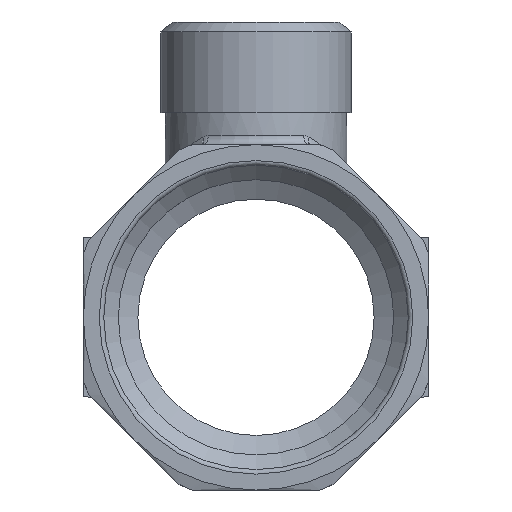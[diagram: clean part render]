
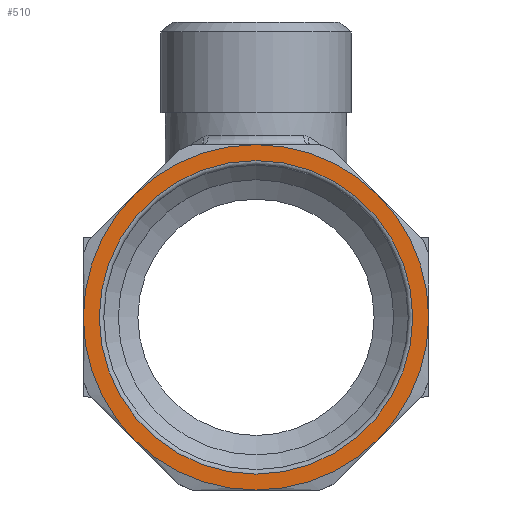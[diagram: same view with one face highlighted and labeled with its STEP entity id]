
A CAD part, front view. The second image highlights one B-rep face of the part: STEP entity #510.
In plain terms, the highlighted planar face has unit normal (0, -1, 0).
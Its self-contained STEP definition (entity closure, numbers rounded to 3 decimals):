
#510=ADVANCED_FACE('',(#6902,#6904),#6906,.F.);
#6902=FACE_BOUND('',#6903,.T.);
#6903=EDGE_LOOP('',(#11833,#11834,#11835,#11836,#11837,#11838,#11839,#11840));
#6904=FACE_BOUND('',#6905,.T.);
#6905=EDGE_LOOP('',(#11841));
#6906=PLANE('',#6907);
#6907=AXIS2_PLACEMENT_3D('',#6908,#6909,#6910);
#6908=CARTESIAN_POINT('',(0.,0.,0.));
#6909=DIRECTION('',(0.,1.,0.));
#6910=DIRECTION('',(-1.,0.,0.));
#11833=ORIENTED_EDGE('',*,*,#14566,.T.);
#11834=ORIENTED_EDGE('',*,*,#14565,.T.);
#11835=ORIENTED_EDGE('',*,*,#14564,.T.);
#11836=ORIENTED_EDGE('',*,*,#14571,.T.);
#11837=ORIENTED_EDGE('',*,*,#14570,.T.);
#11838=ORIENTED_EDGE('',*,*,#14569,.T.);
#11839=ORIENTED_EDGE('',*,*,#14568,.T.);
#11840=ORIENTED_EDGE('',*,*,#14567,.T.);
#11841=ORIENTED_EDGE('',*,*,#14753,.T.);
#14564=EDGE_CURVE('',#17202,#17258,#17302,.T.);
#14565=EDGE_CURVE('',#17210,#17202,#17303,.T.);
#14566=EDGE_CURVE('',#17218,#17210,#17304,.T.);
#14567=EDGE_CURVE('',#17226,#17218,#17305,.T.);
#14568=EDGE_CURVE('',#17234,#17226,#17306,.T.);
#14569=EDGE_CURVE('',#17242,#17234,#17307,.T.);
#14570=EDGE_CURVE('',#17250,#17242,#17308,.T.);
#14571=EDGE_CURVE('',#17258,#17250,#17309,.T.);
#14753=EDGE_CURVE('',#17672,#17672,#17673,.F.);
#17202=VERTEX_POINT('',#31474);
#17210=VERTEX_POINT('',#31533);
#17218=VERTEX_POINT('',#31582);
#17226=VERTEX_POINT('',#31643);
#17234=VERTEX_POINT('',#31692);
#17242=VERTEX_POINT('',#31751);
#17250=VERTEX_POINT('',#31800);
#17258=VERTEX_POINT('',#31859);
#17302=CIRCLE('',#31997,19.);
#17303=CIRCLE('',#32001,19.);
#17304=CIRCLE('',#32005,19.);
#17305=CIRCLE('',#32009,19.);
#17306=CIRCLE('',#32013,19.);
#17307=CIRCLE('',#32017,19.);
#17308=CIRCLE('',#32021,19.);
#17309=CIRCLE('',#32025,19.);
#17672=VERTEX_POINT('',#32758);
#17673=CIRCLE('',#32759,17.25);
#31474=CARTESIAN_POINT('',(0.,0.,19.));
#31533=CARTESIAN_POINT('',(13.435,0.,13.435));
#31582=CARTESIAN_POINT('',(19.,0.,0.));
#31643=CARTESIAN_POINT('',(13.435,0.,-13.435));
#31692=CARTESIAN_POINT('',(0.,0.,-19.));
#31751=CARTESIAN_POINT('',(-13.435,0.,-13.435));
#31800=CARTESIAN_POINT('',(-19.,0.,0.));
#31859=CARTESIAN_POINT('',(-13.435,0.,13.435));
#31997=AXIS2_PLACEMENT_3D('',#31998,#31999,#32000);
#31998=CARTESIAN_POINT('',(0.,0.,0.));
#31999=DIRECTION('',(0.,-1.,0.));
#32000=DIRECTION('',(0.,0.,1.));
#32001=AXIS2_PLACEMENT_3D('',#32002,#32003,#32004);
#32002=CARTESIAN_POINT('',(0.,0.,0.));
#32003=DIRECTION('',(0.,-1.,0.));
#32004=DIRECTION('',(0.707,0.,0.707));
#32005=AXIS2_PLACEMENT_3D('',#32006,#32007,#32008);
#32006=CARTESIAN_POINT('',(0.,0.,0.));
#32007=DIRECTION('',(0.,-1.,0.));
#32008=DIRECTION('',(1.,0.,0.));
#32009=AXIS2_PLACEMENT_3D('',#32010,#32011,#32012);
#32010=CARTESIAN_POINT('',(0.,0.,0.));
#32011=DIRECTION('',(0.,-1.,0.));
#32012=DIRECTION('',(0.707,0.,-0.707));
#32013=AXIS2_PLACEMENT_3D('',#32014,#32015,#32016);
#32014=CARTESIAN_POINT('',(0.,0.,0.));
#32015=DIRECTION('',(0.,-1.,0.));
#32016=DIRECTION('',(0.,0.,-1.));
#32017=AXIS2_PLACEMENT_3D('',#32018,#32019,#32020);
#32018=CARTESIAN_POINT('',(0.,0.,0.));
#32019=DIRECTION('',(0.,-1.,0.));
#32020=DIRECTION('',(-0.707,0.,-0.707));
#32021=AXIS2_PLACEMENT_3D('',#32022,#32023,#32024);
#32022=CARTESIAN_POINT('',(0.,0.,0.));
#32023=DIRECTION('',(0.,-1.,0.));
#32024=DIRECTION('',(-1.,0.,0.));
#32025=AXIS2_PLACEMENT_3D('',#32026,#32027,#32028);
#32026=CARTESIAN_POINT('',(0.,0.,0.));
#32027=DIRECTION('',(0.,-1.,0.));
#32028=DIRECTION('',(-0.707,0.,0.707));
#32758=CARTESIAN_POINT('',(0.,0.,17.25));
#32759=AXIS2_PLACEMENT_3D('',#32760,#32761,#32762);
#32760=CARTESIAN_POINT('',(0.,0.,0.));
#32761=DIRECTION('',(0.,-1.,0.));
#32762=DIRECTION('',(0.,0.,1.));
